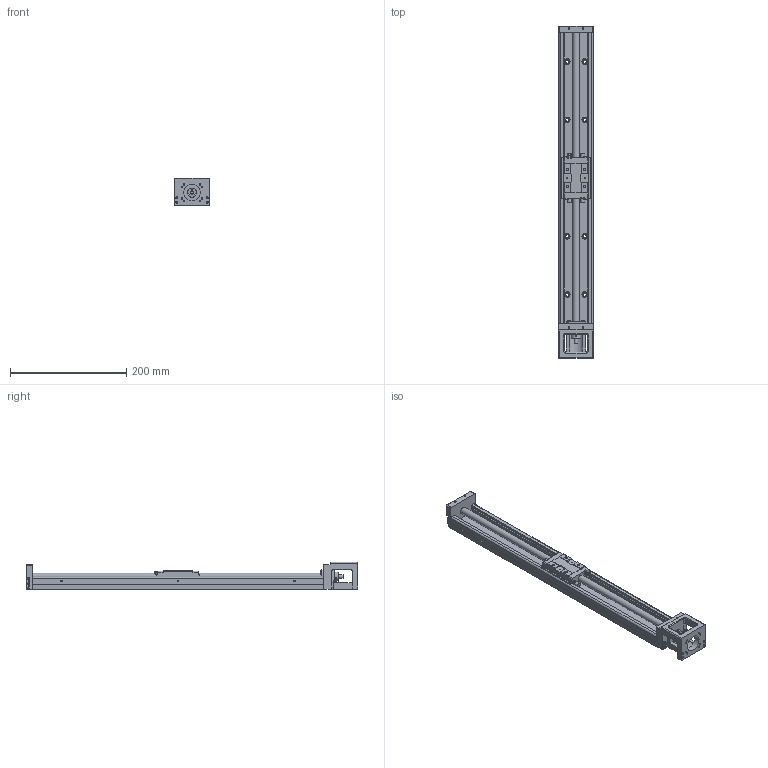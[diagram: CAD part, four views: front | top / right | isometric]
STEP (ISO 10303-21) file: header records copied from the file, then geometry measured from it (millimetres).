
FILE_DESCRIPTION(/* description */ (''),/* implementation_level */ '2;1');
FILE_NAME(/* name */ 'FKL60E410 05(10)C7.stp',/* time_stamp */ '2019-01-30T11:14:21+08:00',/* author */ (''),/* organization */ (''),/* preprocessor_version */ 'ST-DEVELOPER v16',/* originating_system */ 'SIEMENS PLM Software NX 10.0',/* authorisation */ '');
FILE_SCHEMA (('AUTOMOTIVE_DESIGN { 1 0 10303 214 3 1 1 1 }'));
Length unit declared in the file: millimetre
Products named in the file (3): 滑台.KK60.90-A1; 轨道.KK60-500; FKL60E410 05(10)C7
Assembly tree (2 placements, depth 2):
  FKL60E410 05(10)C7
    轨道.KK60-500
    滑台.KK60.90-A1
Bounding box: 60 x 570 x 47 mm (x, y, z)
Volume: 572642.6 mm3; surface area: 162295.9 mm2
Topology: 2 solids, 2 shells, 508 faces, 1304 edges, 847 vertices
Faces by surface type: plane 313, cylinder 151, torus 22, cone 13, sphere 9
Full cylindrical faces by diameter (mm): 2.05 x6, 2.5 x14, 3.3 x1, 3.5 x4, 4.2 x4, 5.5 x18, 6 x5, 7 x4, 9.5 x10, 11 x1, 12 x2, 28 x1
Entity records: 14848 total; most frequent: CARTESIAN_POINT 2544, DIRECTION 2512, ORIENTED_EDGE 2304, EDGE_CURVE 1152, AXIS2_PLACEMENT_3D 863, VERTEX_POINT 791, LINE 786, VECTOR 786
